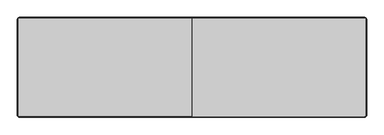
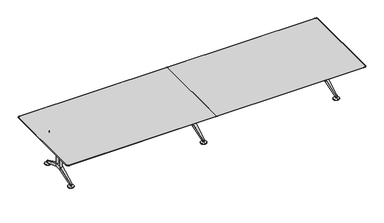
"""IFC4 building model written with IfcOpenShell, lengths in millimetres: furniture geometry, Furniture_Wilkhahn_620-23_Logon Table-Rectangle : Logon 620/23_5250L x 1500W x 730H."""

from ifc_helpers import new_model, si_unit, point, frame, frame_2d, origin, place, context, project, spatial, polyline, circle_curve, ellipse_curve, trimmed, segment, composite_curve, outline, extrude, source, transform, mapped, element, save
from ifc_brep_helpers import plane_surface, cylinder_surface, revolved_surface, advanced_brep


def furniture_16164661(model_context):
    return source(origin(), model_context, "Body", "SolidModel", [
        advanced_brep(
        [(0.0, 26.4755164, 0.0), (0.0, -23.5244836, 0.0), (0.0, 76.4755164, 0.0), (0.0, -23.5244836, 6.0), (0.0, 76.4755164, 6.0), (0.0, 13.9998784, 17.0), (0.0, 38.9511544, 17.0), (0.0, 13.9998784, 27.0), (0.0, 38.9511544, 27.0), (0.0, 26.4755164, 27.0)],
        [
            (0, 1),
            (1, 2, circle_curve(frame((0.0, 26.4755164, 0.0), z_axis=(0.0, 0.0, -1.0), x_axis=(0.0, 1.0000000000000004, 0.0)), 50.0)),
            (2, 0),
            (2, 1, circle_curve(frame((0.0, 26.4755164, 0.0), z_axis=(0.0, 0.0, -1.0), x_axis=(0.0, 1.0000000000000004, 0.0)), 50.0)),
            (1, 3),
            (3, 4, circle_curve(frame((0.0, 26.4755164, 6.0), z_axis=(0.0, 0.0, -1.0), x_axis=(0.0, 1.0000000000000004, 0.0)), 50.0)),
            (4, 2),
            (4, 3, circle_curve(frame((0.0, 26.4755164, 6.0), z_axis=(0.0, 0.0, -1.0), x_axis=(0.0, 1.0000000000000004, 0.0)), 50.0)),
            (3, 5),
            (5, 6, circle_curve(frame((0.0, 26.4755164, 17.0), z_axis=(0.0, 0.0, -1.0), x_axis=(0.0, 1.0000000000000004, 0.0)), 12.475638)),
            (6, 4),
            (6, 5, circle_curve(frame((0.0, 26.4755164, 17.0), z_axis=(0.0, 0.0, -1.0), x_axis=(0.0, 1.0000000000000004, 0.0)), 12.475638)),
            (5, 7),
            (7, 8, circle_curve(frame((0.0, 26.4755164, 27.0), z_axis=(0.0, 0.0, -1.0), x_axis=(0.0, 1.0000000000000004, 0.0)), 12.475638)),
            (8, 6),
            (8, 7, circle_curve(frame((0.0, 26.4755164, 27.0), z_axis=(0.0, 0.0, -1.0), x_axis=(0.0, 1.0000000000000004, 0.0)), 12.475638)),
            (7, 9),
            (9, 8),
        ],
        [
            plane_surface(frame((0.0, 26.4755164, 0.0), z_axis=(0.0, 0.0, -1.0), x_axis=(0.0, 1.0, 0.0))),
            cylinder_surface(frame((0.0, 26.4755164, 27.0), z_axis=(0.0, 0.0, -1.0), x_axis=(0.0, 1.0000000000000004, 0.0)), 50.0),
            revolved_surface(polyline([(0.0, 38.9511544, 17.0), (0.0, 76.4755164, 6.0)]), (0.0, 26.4755164, 27.0), (0.0, 0.0, -1.0)),
            cylinder_surface(frame((0.0, 26.4755164, 27.0), z_axis=(0.0, 0.0, -1.0), x_axis=(0.0, 1.0000000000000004, 0.0)), 12.475638),
            plane_surface(frame((0.0, 26.4755164, 27.0), z_axis=(0.0, 0.0, 1.0), x_axis=(0.0, 1.0, 0.0))),
        ],
        [
            (0, [[1, 2, 3]]),
            (0, [[-3, 4, -1]]),
            (1, [[5, 6, 7, -2]]),
            (1, [[-7, 8, -5, -4]]),
            (2, [[9, 10, 11, -6]]),
            (2, [[-11, 12, -9, -8]]),
            (3, [[13, 14, 15, -10]]),
            (3, [[-15, 16, -13, -12]]),
            (4, [[17, 18, -14]]),
            (4, [[-18, -17, -16]]),
        ],
    ),
        advanced_brep(
        [(0.0, -624.5732076, 0.0), (0.0, -674.5732076, 0.0), (0.0, -724.5732076, 0.0), (0.0, -624.5732076, 6.0), (0.0, -724.5732076, 6.0), (0.0, -662.0975696, 17.0), (0.0, -687.0488456, 17.0), (0.0, -662.0975696, 27.0), (0.0, -687.0488456, 27.0), (0.0, -674.5732076, 27.0)],
        [
            (0, 1),
            (1, 2),
            (2, 0, circle_curve(frame((0.0, -674.5732076, 0.0), z_axis=(0.0, 0.0, -1.0), x_axis=(0.0, -1.0000000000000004, 0.0)), 50.0)),
            (0, 2, circle_curve(frame((0.0, -674.5732076, 0.0), z_axis=(0.0, 0.0, -1.0), x_axis=(0.0, -1.0000000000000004, 0.0)), 50.0)),
            (3, 0),
            (2, 4),
            (4, 3, circle_curve(frame((0.0, -674.5732076, 6.0), z_axis=(0.0, 0.0, -1.0), x_axis=(0.0, -1.0000000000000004, 0.0)), 50.0)),
            (3, 4, circle_curve(frame((0.0, -674.5732076, 6.0), z_axis=(0.0, 0.0, -1.0), x_axis=(0.0, -1.0000000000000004, 0.0)), 50.0)),
            (5, 3),
            (4, 6),
            (6, 5, circle_curve(frame((0.0, -674.5732076, 17.0), z_axis=(0.0, 0.0, -1.0), x_axis=(0.0, -1.0000000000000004, 0.0)), 12.475638)),
            (5, 6, circle_curve(frame((0.0, -674.5732076, 17.0), z_axis=(0.0, 0.0, -1.0), x_axis=(0.0, -1.0000000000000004, 0.0)), 12.475638)),
            (7, 5),
            (6, 8),
            (8, 7, circle_curve(frame((0.0, -674.5732076, 27.0), z_axis=(0.0, 0.0, -1.0), x_axis=(0.0, -1.0000000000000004, 0.0)), 12.475638)),
            (7, 8, circle_curve(frame((0.0, -674.5732076, 27.0), z_axis=(0.0, 0.0, -1.0), x_axis=(0.0, -1.0000000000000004, 0.0)), 12.475638)),
            (9, 7),
            (8, 9),
        ],
        [
            plane_surface(frame((0.0, -674.5732076, 0.0), z_axis=(0.0, 0.0, -1.0), x_axis=(0.0, -1.0, 0.0))),
            cylinder_surface(frame((0.0, -674.5732076, 27.0), z_axis=(0.0, 0.0, 1.0), x_axis=(0.0, -1.0000000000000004, 0.0)), 50.0),
            revolved_surface(polyline([(0.0, -724.5732076, 6.0), (0.0, -687.0488456, 17.0)]), (0.0, -674.5732076, 27.0), (0.0, 0.0, 1.0)),
            cylinder_surface(frame((0.0, -674.5732076, 27.0), z_axis=(0.0, 0.0, 1.0), x_axis=(0.0, -1.0000000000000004, 0.0)), 12.475638),
            plane_surface(frame((0.0, -674.5732076, 27.0), z_axis=(0.0, 0.0, 1.0), x_axis=(0.0, -1.0, 0.0))),
        ],
        [
            (0, [[1, 2, 3]]),
            (0, [[-2, -1, 4]]),
            (1, [[5, -3, 6, 7]]),
            (1, [[-6, -4, -5, 8]]),
            (2, [[9, -7, 10, 11]]),
            (2, [[-10, -8, -9, 12]]),
            (3, [[13, -11, 14, 15]]),
            (3, [[-14, -12, -13, 16]]),
            (4, [[17, -15, 18]]),
            (4, [[-18, -16, -17]]),
        ],
    ),
        extrude(outline(composite_curve([segment(polyline([(25.0, -271.0488456), (25.0, -377.0488456), (51.7160071, -540.1086133)]), True, "CONTINUOUS"), segment(trimmed(circle_curve(frame_2d((39.8739001, -542.0488456)), 12.0), [point((51.7160071, -540.1086133))], [point((39.8739001, -554.0488456))], False, "CARTESIAN"), True, "CONTINUOUS"), segment(polyline([(39.8739001, -554.0488456), (-39.8739001, -554.0488456)]), True, "CONTINUOUS"), segment(trimmed(circle_curve(frame_2d((-39.8739001, -542.0488456)), 12.0), [point((-39.8739001, -554.0488456))], [point((-51.7160071, -540.1086133))], False, "CARTESIAN"), True, "CONTINUOUS"), segment(polyline([(-51.7160071, -540.1086133), (-25.0, -377.0488456), (-25.0, -271.0488456), (-51.7160071, -107.9890778)]), True, "CONTINUOUS"), segment(trimmed(circle_curve(frame_2d((-39.8739001, -106.0488456)), 12.0), [point((-51.7160071, -107.9890778))], [point((-39.8739001, -94.0488456))], False, "CARTESIAN"), True, "CONTINUOUS"), segment(polyline([(-39.8739001, -94.0488456), (39.8739001, -94.0488456)]), True, "CONTINUOUS"), segment(trimmed(circle_curve(frame_2d((39.8739001, -106.0488456)), 12.0), [point((39.8739001, -94.0488456))], [point((51.7160071, -107.9890778))], False, "CARTESIAN"), True, "CONTINUOUS"), segment(polyline([(51.7160071, -107.9890778), (25.0, -271.0488456)]), True, "CONTINUOUS")], self_intersect=False)), frame((0.0, 0.0, 675.0), z_axis=(0.0, 0.0, 1.0), x_axis=(1.0, 0.0, 0.0)), (0.0, 0.0, 1.0), 29.0),
        advanced_brep(
        [(-25.0, -377.0488456, 140.0), (-25.0, -377.0488456, 195.0), (-25.0, -271.0488456, 195.0), (-25.0, -271.0488456, 140.0), (25.0, -377.0488456, 195.0), (25.0, -377.0488456, 140.0), (25.0, -271.0488456, 140.0), (25.0, -271.0488456, 195.0), (13.4930419, -662.0975696, 27.0), (12.9894205, -674.5732076, 27.0), (0.0, -687.0488456, 27.0), (-12.9894205, -674.5732076, 27.0), (-13.4930419, -662.0975696, 27.0), (-12.9894205, -674.5732076, 56.4159205), (0.0, -687.0488456, 50.6048844), (12.9894205, -674.5732076, 56.4159205), (12.9894205, 26.4755164, 56.4159205), (13.4930419, 13.9998784, 27.0), (12.9894205, 26.4755164, 27.0), (-12.9894205, 26.4755164, 27.0), (-13.4930419, 13.9998784, 27.0), (-12.9894205, 26.4755164, 56.4159205), (0.0, 38.9511544, 50.6048844), (0.0, 38.9511544, 27.0)],
        [
            (0, 1),
            (1, 2),
            (2, 3),
            (3, 0),
            (4, 5),
            (5, 6),
            (6, 7),
            (7, 4),
            (8, 9),
            (9, 10, circle_curve(frame((0.0, -674.0488456, 27.0), z_axis=(0.0, 0.0, -1.0), x_axis=(1.0000000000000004, 0.0, 0.0)), 13.0)),
            (10, 11, circle_curve(frame((0.0, -674.0488456, 27.0), z_axis=(0.0, 0.0, -1.0), x_axis=(1.0000000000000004, 0.0, 0.0)), 13.0)),
            (11, 12),
            (12, 8),
            (1, 13),
            (13, 14, ellipse_curve(frame((0.0, -674.0488456, 56.6601634), z_axis=(0.0, -0.42223330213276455, 0.9064871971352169), x_axis=(0.0, -0.9064871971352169, -0.42223330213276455)), 14.341074, 13.0)),
            (14, 15, ellipse_curve(frame((0.0, -674.0488456, 56.6601634), z_axis=(0.0, -0.42223330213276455, 0.9064871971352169), x_axis=(0.0, -0.9064871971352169, -0.42223330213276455)), 14.341074, 13.0)),
            (15, 4),
            (4, 1),
            (5, 8),
            (12, 0),
            (0, 5),
            (16, 7),
            (6, 17),
            (17, 18),
            (18, 16),
            (19, 20),
            (20, 3),
            (2, 21),
            (21, 19),
            (7, 2),
            (3, 6),
            (21, 22, ellipse_curve(frame((0.0, 25.9511544, 56.6601634), z_axis=(0.0, -0.42223330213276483, -0.906487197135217), x_axis=(0.0, 0.906487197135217, -0.42223330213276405)), 14.341074, 13.0)),
            (22, 16, ellipse_curve(frame((0.0, 25.9511544, 56.6601634), z_axis=(0.0, -0.42223330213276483, -0.906487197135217), x_axis=(0.0, 0.906487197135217, -0.42223330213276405)), 14.341074, 13.0)),
            (18, 23, circle_curve(frame((0.0, 25.9511544, 27.0), z_axis=(0.0, 0.0, 1.0), x_axis=(1.0000000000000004, 0.0, 0.0)), 13.0)),
            (23, 19, circle_curve(frame((0.0, 25.9511544, 27.0), z_axis=(0.0, 0.0, 1.0), x_axis=(1.0000000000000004, 0.0, 0.0)), 13.0)),
            (11, 13),
            (9, 15),
            (17, 20),
        ],
        [
            plane_surface(frame((-25.0, -670.3023057, 27.0), z_axis=(-1.0, 0.0, 0.0), x_axis=(0.0, 1.0, 0.0))),
            plane_surface(frame((25.0, -670.3023057, 27.0), z_axis=(1.0, 0.0, 0.0), x_axis=(0.0, -1.0, 0.0))),
            plane_surface(frame((25.0, -662.0975696, 27.0), z_axis=(0.0, 0.0, -1.0), x_axis=(-1.0, 0.0, 0.0))),
            plane_surface(frame((25.0, -687.0488456, 50.6048844), z_axis=(0.0, -0.42223330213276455, 0.9064871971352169), x_axis=(-1.0, 0.0, 0.0))),
            plane_surface(frame((25.0, -377.0488456, 140.0), z_axis=(0.0, 0.36852267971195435, -0.9296187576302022), x_axis=(-1.0, 0.0, 0.0))),
            plane_surface(frame((25.0, -271.0488456, 195.0), z_axis=(0.9991861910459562, 0.04033553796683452, 0.0), x_axis=(0.0, 0.0, -1.0))),
            plane_surface(frame((-12.9894205, 26.4755164, 195.0), z_axis=(-0.9991861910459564, 0.0403355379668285, 0.0), x_axis=(0.0, 0.0, -1.0))),
            plane_surface(frame((25.0, -377.0488456, 195.0), z_axis=(0.0, 0.0, 1.0), x_axis=(-1.0, 0.0, 0.0))),
            plane_surface(frame((25.0, -271.0488456, 140.0), z_axis=(0.0, 0.0, -1.0), x_axis=(-1.0, 0.0, 0.0))),
            cylinder_surface(frame((0.0, 25.9511544, 0.0), z_axis=(0.0, 0.0, -1.0), x_axis=(1.0000000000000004, 0.0, 0.0)), 13.0),
            plane_surface(frame((-25.0, -377.0488456, 195.0), z_axis=(-0.9991861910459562, -0.040335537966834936, 0.0), x_axis=(0.0, 0.0, -1.0))),
            cylinder_surface(frame((0.0, -674.0488456, -14.190167), z_axis=(0.0, 0.0, -1.0), x_axis=(1.0000000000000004, 0.0, 0.0)), 13.0),
            plane_surface(frame((12.9894205, -674.5732076, 195.0), z_axis=(0.9991861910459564, -0.04033553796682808, 0.0), x_axis=(0.0, 0.0, -1.0))),
            plane_surface(frame((25.0, -271.0488456, 195.0), z_axis=(0.0, 0.4222333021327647, 0.9064871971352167), x_axis=(-1.0, 0.0, 0.0))),
            plane_surface(frame((25.0, 38.9511544, 27.0), z_axis=(0.0, 0.0, -1.0), x_axis=(-1.0, 0.0, 0.0))),
            plane_surface(frame((25.0, 13.9998784, 27.0), z_axis=(0.0, -0.36852267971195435, -0.929618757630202), x_axis=(-1.0, 0.0, 0.0))),
        ],
        [
            (0, [[1, 2, 3, 4]]),
            (1, [[5, 6, 7, 8]]),
            (2, [[9, 10, 11, 12, 13]]),
            (3, [[14, 15, 16, 17, 18]]),
            (4, [[19, -13, 20, 21]]),
            (5, [[22, -7, 23, 24, 25]]),
            (6, [[26, 27, -3, 28, 29]]),
            (7, [[-18, -8, 30, -2]]),
            (8, [[31, -6, -21, -4]]),
            (9, [[32, 33, -25, 34, 35, -29]]),
            (10, [[-14, -1, -20, -12, 36]]),
            (11, [[-11, -10, 37, -16, -15, -36]]),
            (12, [[-9, -19, -5, -17, -37]]),
            (13, [[-22, -33, -32, -28, -30]]),
            (14, [[-26, -35, -34, -24, 38]]),
            (15, [[-27, -38, -23, -31]]),
        ],
    ),
        extrude(outline(composite_curve([segment(trimmed(circle_curve(frame_2d((0.0, -271.0488456)), 20.0), [point((-20.0, -271.0488456))], [point((20.0, -271.0488456))], False, "CARTESIAN"), True, "CONTINUOUS"), segment(trimmed(circle_curve(frame_2d((0.0, -271.0488456)), 20.0), [point((20.0, -271.0488456))], [point((-20.0, -271.0488456))], False, "CARTESIAN"), True, "CONTINUOUS")], self_intersect=False)), frame((0.0, 0.0, 140.0), z_axis=(0.0, 0.0, 1.0), x_axis=(1.0, 0.0, 0.0)), (0.0, 0.0, 1.0), 535.0),
        extrude(outline(composite_curve([segment(trimmed(circle_curve(frame_2d((0.0, -377.0488456)), 20.0), [point((-20.0, -377.0488456))], [point((20.0, -377.0488456))], False, "CARTESIAN"), True, "CONTINUOUS"), segment(trimmed(circle_curve(frame_2d((0.0, -377.0488456)), 20.0), [point((20.0, -377.0488456))], [point((-20.0, -377.0488456))], False, "CARTESIAN"), True, "CONTINUOUS")], self_intersect=False)), frame((0.0, 0.0, 140.0), z_axis=(0.0, 0.0, 1.0), x_axis=(1.0, 0.0, 0.0)), (0.0, 0.0, 1.0), 535.0),
        advanced_brep(
        [(0.0, -1070.4570299, 730.0), (2594.5, -1070.4570299, 730.0), (2621.4081843, -1043.5488456, 730.0), (2621.4081843, 395.4511544, 730.0), (2594.5, 422.3593387, 730.0), (0.0, 422.3593387, 730.0), (0.0, -1044.7199471, 703.9999792), (0.0, 396.6222559, 703.9999792), (2594.5, 396.6222559, 703.9999792), (2595.6711015, 395.4511544, 703.9999792), (2595.6711015, -1043.5488456, 703.9999792), (2594.5, -1044.7199471, 703.9999792), (0.0, 424.4200641, 723.4642141), (0.0, -1072.5177553, 723.4642141), (2594.5, 424.4200641, 723.4642141), (2623.4689097, 395.4511544, 723.4642141), (2623.4689097, -1043.5488456, 723.4642141), (2594.5, -1072.5177553, 723.4642141)],
        [
            (0, 1),
            (1, 2, circle_curve(frame((2594.5, -1043.5488456, 730.0), z_axis=(0.0, 0.0, 1.0), x_axis=(1.0, 0.0, 0.0)), 26.9081843)),
            (2, 3),
            (3, 4, circle_curve(frame((2594.5, 395.4511544, 730.0), z_axis=(0.0, 0.0, 1.0), x_axis=(0.0, 1.0, 0.0)), 26.9081843)),
            (4, 5),
            (5, 0),
            (6, 7),
            (7, 8),
            (8, 9, circle_curve(frame((2594.5, 395.4511544, 703.9999792), z_axis=(0.0, 0.0, -1.0), x_axis=(0.0, 1.0, 0.0)), 1.1711015)),
            (9, 10),
            (10, 11, circle_curve(frame((2594.5, -1043.5488456, 703.9999792), z_axis=(0.0, 0.0, -1.0), x_axis=(1.0, 0.0, 0.0)), 1.1711015)),
            (11, 6),
            (5, 12, circle_curve(frame((0.0, 422.3593387, 726.4072349), z_axis=(-1.0, 0.0, 0.0), x_axis=(0.0, 1.0, 0.0)), 3.5927651)),
            (12, 7),
            (6, 13),
            (13, 0, circle_curve(frame((0.0, -1070.4570299, 726.4072349), z_axis=(-1.0, 0.0, 0.0), x_axis=(0.0, -1.0, 0.0)), 3.5927651)),
            (12, 14),
            (14, 8),
            (4, 14, circle_curve(frame((2594.5, 422.3593387, 726.4072349), z_axis=(-1.0, 0.0, 0.0), x_axis=(0.0, 1.0, 0.0)), 3.5927651)),
            (14, 15, circle_curve(frame((2594.5, 395.4511544, 723.4642141), z_axis=(0.0, 0.0, -1.0), x_axis=(0.0, 1.0, 0.0)), 28.9689097)),
            (15, 9),
            (3, 15, circle_curve(frame((2621.4081843, 395.4511544, 726.4072349), z_axis=(0.0, 1.0, 0.0), x_axis=(1.0, 0.0, 0.0)), 3.5927651)),
            (15, 16),
            (16, 10),
            (2, 16, circle_curve(frame((2621.4081843, -1043.5488456, 726.4072349), z_axis=(0.0, 1.0, 0.0), x_axis=(1.0, 0.0, 0.0)), 3.5927651)),
            (16, 17, circle_curve(frame((2594.5, -1043.5488456, 723.4642141), z_axis=(0.0, 0.0, -1.0), x_axis=(1.0, 0.0, 0.0)), 28.9689097)),
            (17, 11),
            (1, 17, circle_curve(frame((2594.5, -1070.4570299, 726.4072349), z_axis=(1.0, 0.0, 0.0), x_axis=(0.0, -1.0, 0.0)), 3.5927651)),
            (17, 13),
        ],
        [
            plane_surface(frame((0.0, 396.6222559, 730.0), z_axis=(0.0, 0.0, 1.0), x_axis=(-1.0, 0.0, 0.0))),
            plane_surface(frame((0.0, 396.6222559, 703.9999792), z_axis=(0.0, 0.0, -1.0), x_axis=(1.0, 0.0, 0.0))),
            plane_surface(frame((0.0, 396.6222559, 730.0), z_axis=(-1.0, 0.0, 0.0), x_axis=(0.0, 0.0, -1.0))),
            plane_surface(frame((0.0, 424.4200641, 723.4642141), z_axis=(0.0, 0.573576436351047, -0.8191520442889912), x_axis=(1.0, 0.0, 0.0))),
            cylinder_surface(frame((0.0, 422.3593387, 726.4072349), z_axis=(-1.0, 0.0, 0.0), x_axis=(0.0, 1.0, 0.0)), 3.5927651),
            revolved_surface(polyline([(2594.5, 424.4200641, 723.4642141), (2594.5, 396.6222559, 703.9999792)]), (2594.5, 395.4511544, 730.0), (0.0, 0.0, -1.0)),
            revolved_surface(trimmed(ellipse_curve(frame((2594.5, 422.3593387, 726.4072349), z_axis=(-1.0, 0.0, 0.0), x_axis=(0.0, 1.0, 0.0)), 3.5927651, 3.5927651), [point((2594.5, 422.3593387, 730.0))], [point((2594.5, 424.4200641, 723.4642141))], True, "CARTESIAN"), (2594.5, 395.4511544, 730.0), (0.0, 0.0, -1.0)),
            plane_surface(frame((2623.4689097, 395.4511544, 723.4642141), z_axis=(0.5735764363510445, 0.0, -0.819152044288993), x_axis=(0.0, -1.0, 0.0))),
            cylinder_surface(frame((2621.4081843, 395.4511544, 726.4072349), z_axis=(0.0, 1.0, 0.0), x_axis=(1.0, 0.0, 0.0)), 3.5927651),
            revolved_surface(polyline([(2623.4689097, -1043.5488456, 723.4642141), (2595.6711015, -1043.5488456, 703.9999792)]), (2594.5, -1043.5488456, 730.0), (0.0, 0.0, -1.0)),
            revolved_surface(trimmed(ellipse_curve(frame((2621.4081843, -1043.5488456, 726.4072349), z_axis=(0.0, 1.0, 0.0), x_axis=(1.0, 0.0, 0.0)), 3.5927651, 3.5927651), [point((2621.4081843, -1043.5488456, 730.0))], [point((2623.4689097, -1043.5488456, 723.4642141))], True, "CARTESIAN"), (2594.5, -1043.5488456, 730.0), (0.0, 0.0, -1.0)),
            plane_surface(frame((2594.5, -1072.5177553, 723.4642141), z_axis=(0.0, -0.5735764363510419, -0.8191520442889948), x_axis=(-1.0, 0.0, 0.0))),
            cylinder_surface(frame((2594.5, -1070.4570299, 726.4072349), z_axis=(1.0, 0.0, 0.0), x_axis=(0.0, -1.0, 0.0)), 3.5927651),
        ],
        [
            (0, [[1, 2, 3, 4, 5, 6]]),
            (1, [[7, 8, 9, 10, 11, 12]]),
            (2, [[-6, 13, 14, -7, 15, 16]]),
            (3, [[-14, 17, 18, -8]]),
            (4, [[-13, -5, 19, -17]]),
            (5, [[-18, 20, 21, -9]]),
            (6, [[-4, 22, -20, -19]]),
            (7, [[-21, 23, 24, -10]]),
            (8, [[-3, 25, -23, -22]]),
            (9, [[-24, 26, 27, -11]]),
            (10, [[-2, 28, -26, -25]]),
            (11, [[-15, -12, -27, 29]]),
            (12, [[-16, -29, -28, -1]]),
        ],
    ),
        advanced_brep(
        [(0.0, 424.4200641, 723.4642141), (0.0, 396.6222559, 703.9999792), (-2594.5, 396.6222559, 703.9999792), (-2594.5, 424.4200641, 723.4642141), (0.0, 422.3593387, 730.0), (-2594.5, 422.3593387, 730.0), (-2595.6711015, 395.4511544, 703.9999792), (-2623.4689097, 395.4511544, 723.4642141), (-2621.4081843, 395.4511544, 730.0), (-2595.6711015, -1043.5488456, 703.9999792), (-2623.4689097, -1043.5488456, 723.4642141), (-2621.4081843, -1043.5488456, 730.0), (-2594.5, -1044.7199471, 703.9999792), (-2594.5, -1072.5177553, 723.4642141), (-2594.5, -1070.4570299, 730.0), (0.0, -1044.7199471, 703.9999792), (0.0, -1072.5177553, 723.4642141), (0.0, -1070.4570299, 730.0)],
        [
            (0, 1),
            (1, 2),
            (2, 3),
            (3, 0),
            (4, 0, circle_curve(frame((0.0, 422.3593387, 726.4072349), z_axis=(-1.0, 0.0, 0.0), x_axis=(0.0, -1.0, 0.0)), 3.5927651)),
            (3, 5, circle_curve(frame((-2594.5, 422.3593387, 726.4072349), z_axis=(1.0, 0.0, 0.0), x_axis=(0.0, -1.0, 0.0)), 3.5927651)),
            (5, 4),
            (2, 6, circle_curve(frame((-2594.5, 395.4511544, 703.9999792), z_axis=(0.0, 0.0, 1.0), x_axis=(0.0, 1.0, 0.0)), 1.1711015)),
            (6, 7),
            (7, 3, circle_curve(frame((-2594.5, 395.4511544, 723.4642141), z_axis=(0.0, 0.0, -1.0), x_axis=(0.0, 1.0, 0.0)), 28.9689097)),
            (8, 5, circle_curve(frame((-2594.5, 395.4511544, 730.0), z_axis=(0.0, 0.0, -1.0), x_axis=(0.0, 1.0, 0.0)), 26.9081843)),
            (7, 8, circle_curve(frame((-2621.4081843, 395.4511544, 726.4072349), z_axis=(0.0, 1.0, 0.0), x_axis=(1.0, 0.0, 0.0)), 3.5927651)),
            (6, 9),
            (9, 10),
            (10, 7),
            (11, 8),
            (10, 11, circle_curve(frame((-2621.4081843, -1043.5488456, 726.4072349), z_axis=(0.0, 1.0, 0.0), x_axis=(1.0, 0.0, 0.0)), 3.5927651)),
            (9, 12, circle_curve(frame((-2594.5, -1043.5488456, 703.9999792), z_axis=(0.0, 0.0, 1.0), x_axis=(-1.0, 0.0, 0.0)), 1.1711015)),
            (12, 13),
            (13, 10, circle_curve(frame((-2594.5, -1043.5488456, 723.4642141), z_axis=(0.0, 0.0, -1.0), x_axis=(-1.0, 0.0, 0.0)), 28.9689097)),
            (14, 11, circle_curve(frame((-2594.5, -1043.5488456, 730.0), z_axis=(0.0, 0.0, -1.0), x_axis=(-1.0, 0.0, 0.0)), 26.9081843)),
            (13, 14, circle_curve(frame((-2594.5, -1070.4570299, 726.4072349), z_axis=(-1.0, 0.0, 0.0), x_axis=(0.0, 1.0, 0.0)), 3.5927651)),
            (15, 16),
            (16, 13),
            (12, 15),
            (16, 17, circle_curve(frame((0.0, -1070.4570299, 726.4072349), z_axis=(-1.0, 0.0, 0.0), x_axis=(0.0, 1.0, 0.0)), 3.5927651)),
            (17, 14),
            (1, 15),
            (17, 4),
        ],
        [
            plane_surface(frame((0.0, 396.6222559, 703.9999792), z_axis=(0.0, 0.573576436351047, -0.8191520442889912), x_axis=(-1.0, 0.0, 0.0))),
            cylinder_surface(frame((0.0, 422.3593387, 726.4072349), z_axis=(1.0, 0.0, 0.0), x_axis=(0.0, -1.0, 0.0)), 3.5927651),
            revolved_surface(polyline([(-2594.5, 396.6222559, 703.9999792), (-2594.5, 424.4200641, 723.4642141)]), (-2594.5, 395.4511544, 730.0), (0.0, 0.0, 1.0)),
            revolved_surface(trimmed(ellipse_curve(frame((-2594.5, 422.3593387, 726.4072349), z_axis=(1.0, 0.0, 0.0), x_axis=(0.0, -1.0, 0.0)), 3.5927651, 3.5927651), [point((-2594.5, 424.4200641, 723.4642141))], [point((-2594.5, 422.3593387, 730.0))], True, "CARTESIAN"), (-2594.5, 395.4511544, 730.0), (0.0, 0.0, 1.0)),
            plane_surface(frame((-2595.6711015, 395.4511544, 703.9999792), z_axis=(-0.5735764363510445, 0.0, -0.819152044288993), x_axis=(0.0, -1.0, 0.0))),
            cylinder_surface(frame((-2621.4081843, 395.4511544, 726.4072349), z_axis=(0.0, 1.0, 0.0), x_axis=(1.0, 0.0, 0.0)), 3.5927651),
            revolved_surface(polyline([(-2595.6711015, -1043.5488456, 703.9999792), (-2623.4689097, -1043.5488456, 723.4642141)]), (-2594.5, -1043.5488456, 730.0), (0.0, 0.0, 1.0)),
            revolved_surface(trimmed(ellipse_curve(frame((-2621.4081843, -1043.5488456, 726.4072349), z_axis=(0.0, 1.0, 0.0), x_axis=(1.0, 0.0, 0.0)), 3.5927651, 3.5927651), [point((-2623.4689097, -1043.5488456, 723.4642141))], [point((-2621.4081843, -1043.5488456, 730.0))], True, "CARTESIAN"), (-2594.5, -1043.5488456, 730.0), (0.0, 0.0, 1.0)),
            plane_surface(frame((-2594.5, -1044.7199471, 703.9999792), z_axis=(0.0, -0.5735764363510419, -0.8191520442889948), x_axis=(1.0, 0.0, 0.0))),
            cylinder_surface(frame((-2594.5, -1070.4570299, 726.4072349), z_axis=(-1.0, 0.0, 0.0), x_axis=(0.0, 1.0, 0.0)), 3.5927651),
            plane_surface(frame((-2594.5, 396.6222559, 703.9999792), z_axis=(0.0, 0.0, -1.0), x_axis=(1.0, 0.0, 0.0))),
            plane_surface(frame((-2594.5, 396.6222559, 730.0), z_axis=(0.0, 0.0, 1.0), x_axis=(-1.0, 0.0, 0.0))),
            plane_surface(frame((0.0, -1044.7199471, 730.0), z_axis=(1.0, 0.0, 0.0), x_axis=(0.0, 0.0, -1.0))),
        ],
        [
            (0, [[1, 2, 3, 4]]),
            (1, [[5, -4, 6, 7]]),
            (2, [[-3, 8, 9, 10]]),
            (3, [[11, -6, -10, 12]]),
            (4, [[-9, 13, 14, 15]]),
            (5, [[16, -12, -15, 17]]),
            (6, [[-14, 18, 19, 20]]),
            (7, [[21, -17, -20, 22]]),
            (8, [[23, 24, -19, 25]]),
            (9, [[26, 27, -22, -24]]),
            (10, [[28, -25, -18, -13, -8, -2]]),
            (11, [[-7, -11, -16, -21, -27, 29]]),
            (12, [[-29, -26, -23, -28, -1, -5]]),
        ],
    ),
        advanced_brep(
        [(2325.0, 26.4755164, 0.0), (2325.0, -23.5244836, 0.0), (2325.0, 76.4755164, 0.0), (2325.0, -23.5244836, 6.0), (2325.0, 76.4755164, 6.0), (2325.0, 13.9998784, 17.0), (2325.0, 38.9511544, 17.0), (2325.0, 13.9998784, 27.0), (2325.0, 38.9511544, 27.0), (2325.0, 26.4755164, 27.0)],
        [
            (0, 1),
            (1, 2, circle_curve(frame((2325.0, 26.4755164, 0.0), z_axis=(0.0, 0.0, -1.0), x_axis=(0.0, 1.0000000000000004, 0.0)), 50.0)),
            (2, 0),
            (2, 1, circle_curve(frame((2325.0, 26.4755164, 0.0), z_axis=(0.0, 0.0, -1.0), x_axis=(0.0, 1.0000000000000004, 0.0)), 50.0)),
            (1, 3),
            (3, 4, circle_curve(frame((2325.0, 26.4755164, 6.0), z_axis=(0.0, 0.0, -1.0), x_axis=(0.0, 1.0000000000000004, 0.0)), 50.0)),
            (4, 2),
            (4, 3, circle_curve(frame((2325.0, 26.4755164, 6.0), z_axis=(0.0, 0.0, -1.0), x_axis=(0.0, 1.0000000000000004, 0.0)), 50.0)),
            (3, 5),
            (5, 6, circle_curve(frame((2325.0, 26.4755164, 17.0), z_axis=(0.0, 0.0, -1.0), x_axis=(0.0, 1.0000000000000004, 0.0)), 12.475638)),
            (6, 4),
            (6, 5, circle_curve(frame((2325.0, 26.4755164, 17.0), z_axis=(0.0, 0.0, -1.0), x_axis=(0.0, 1.0000000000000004, 0.0)), 12.475638)),
            (5, 7),
            (7, 8, circle_curve(frame((2325.0, 26.4755164, 27.0), z_axis=(0.0, 0.0, -1.0), x_axis=(0.0, 1.0000000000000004, 0.0)), 12.475638)),
            (8, 6),
            (8, 7, circle_curve(frame((2325.0, 26.4755164, 27.0), z_axis=(0.0, 0.0, -1.0), x_axis=(0.0, 1.0000000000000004, 0.0)), 12.475638)),
            (7, 9),
            (9, 8),
        ],
        [
            plane_surface(frame((2325.0, 26.4755164, 0.0), z_axis=(0.0, 0.0, -1.0), x_axis=(0.0, 1.0, 0.0))),
            cylinder_surface(frame((2325.0, 26.4755164, 27.0), z_axis=(0.0, 0.0, -1.0), x_axis=(0.0, 1.0000000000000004, 0.0)), 50.0),
            revolved_surface(polyline([(2325.0, 38.9511544, 17.0), (2325.0, 76.4755164, 6.0)]), (2325.0, 26.4755164, 27.0), (0.0, 0.0, -1.0)),
            cylinder_surface(frame((2325.0, 26.4755164, 27.0), z_axis=(0.0, 0.0, -1.0), x_axis=(0.0, 1.0000000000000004, 0.0)), 12.475638),
            plane_surface(frame((2325.0, 26.4755164, 27.0), z_axis=(0.0, 0.0, 1.0), x_axis=(0.0, 1.0, 0.0))),
        ],
        [
            (0, [[1, 2, 3]]),
            (0, [[-3, 4, -1]]),
            (1, [[5, 6, 7, -2]]),
            (1, [[-7, 8, -5, -4]]),
            (2, [[9, 10, 11, -6]]),
            (2, [[-11, 12, -9, -8]]),
            (3, [[13, 14, 15, -10]]),
            (3, [[-15, 16, -13, -12]]),
            (4, [[17, 18, -14]]),
            (4, [[-18, -17, -16]]),
        ],
    ),
        advanced_brep(
        [(2325.0, -624.5732076, 0.0), (2325.0, -674.5732076, 0.0), (2325.0, -724.5732076, 0.0), (2325.0, -624.5732076, 6.0), (2325.0, -724.5732076, 6.0), (2325.0, -662.0975696, 17.0), (2325.0, -687.0488456, 17.0), (2325.0, -662.0975696, 27.0), (2325.0, -687.0488456, 27.0), (2325.0, -674.5732076, 27.0)],
        [
            (0, 1),
            (1, 2),
            (2, 0, circle_curve(frame((2325.0, -674.5732076, 0.0), z_axis=(0.0, 0.0, -1.0), x_axis=(0.0, -1.0000000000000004, 0.0)), 50.0)),
            (0, 2, circle_curve(frame((2325.0, -674.5732076, 0.0), z_axis=(0.0, 0.0, -1.0), x_axis=(0.0, -1.0000000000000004, 0.0)), 50.0)),
            (3, 0),
            (2, 4),
            (4, 3, circle_curve(frame((2325.0, -674.5732076, 6.0), z_axis=(0.0, 0.0, -1.0), x_axis=(0.0, -1.0000000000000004, 0.0)), 50.0)),
            (3, 4, circle_curve(frame((2325.0, -674.5732076, 6.0), z_axis=(0.0, 0.0, -1.0), x_axis=(0.0, -1.0000000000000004, 0.0)), 50.0)),
            (5, 3),
            (4, 6),
            (6, 5, circle_curve(frame((2325.0, -674.5732076, 17.0), z_axis=(0.0, 0.0, -1.0), x_axis=(0.0, -1.0000000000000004, 0.0)), 12.475638)),
            (5, 6, circle_curve(frame((2325.0, -674.5732076, 17.0), z_axis=(0.0, 0.0, -1.0), x_axis=(0.0, -1.0000000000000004, 0.0)), 12.475638)),
            (7, 5),
            (6, 8),
            (8, 7, circle_curve(frame((2325.0, -674.5732076, 27.0), z_axis=(0.0, 0.0, -1.0), x_axis=(0.0, -1.0000000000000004, 0.0)), 12.475638)),
            (7, 8, circle_curve(frame((2325.0, -674.5732076, 27.0), z_axis=(0.0, 0.0, -1.0), x_axis=(0.0, -1.0000000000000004, 0.0)), 12.475638)),
            (9, 7),
            (8, 9),
        ],
        [
            plane_surface(frame((2325.0, -674.5732076, 0.0), z_axis=(0.0, 0.0, -1.0), x_axis=(0.0, -1.0, 0.0))),
            cylinder_surface(frame((2325.0, -674.5732076, 27.0), z_axis=(0.0, 0.0, 1.0), x_axis=(0.0, -1.0000000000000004, 0.0)), 50.0),
            revolved_surface(polyline([(2325.0, -724.5732076, 6.0), (2325.0, -687.0488456, 17.0)]), (2325.0, -674.5732076, 27.0), (0.0, 0.0, 1.0)),
            cylinder_surface(frame((2325.0, -674.5732076, 27.0), z_axis=(0.0, 0.0, 1.0), x_axis=(0.0, -1.0000000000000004, 0.0)), 12.475638),
            plane_surface(frame((2325.0, -674.5732076, 27.0), z_axis=(0.0, 0.0, 1.0), x_axis=(0.0, -1.0, 0.0))),
        ],
        [
            (0, [[1, 2, 3]]),
            (0, [[-2, -1, 4]]),
            (1, [[5, -3, 6, 7]]),
            (1, [[-6, -4, -5, 8]]),
            (2, [[9, -7, 10, 11]]),
            (2, [[-10, -8, -9, 12]]),
            (3, [[13, -11, 14, 15]]),
            (3, [[-14, -12, -13, 16]]),
            (4, [[17, -15, 18]]),
            (4, [[-18, -16, -17]]),
        ],
    ),
        extrude(outline(composite_curve([segment(polyline([(2350.0, -271.0488456), (2350.0, -377.0488456), (2376.7160071, -540.1086133)]), True, "CONTINUOUS"), segment(trimmed(circle_curve(frame_2d((2364.8739001, -542.0488456)), 12.0), [point((2376.7160071, -540.1086133))], [point((2364.8739001, -554.0488456))], False, "CARTESIAN"), True, "CONTINUOUS"), segment(polyline([(2364.8739001, -554.0488456), (2285.1260999, -554.0488456)]), True, "CONTINUOUS"), segment(trimmed(circle_curve(frame_2d((2285.1260999, -542.0488456)), 12.0), [point((2285.1260999, -554.0488456))], [point((2273.2839929, -540.1086133))], False, "CARTESIAN"), True, "CONTINUOUS"), segment(polyline([(2273.2839929, -540.1086133), (2300.0, -377.0488456), (2300.0, -271.0488456), (2273.2839929, -107.9890778)]), True, "CONTINUOUS"), segment(trimmed(circle_curve(frame_2d((2285.1260999, -106.0488456)), 12.0), [point((2273.2839929, -107.9890778))], [point((2285.1260999, -94.0488456))], False, "CARTESIAN"), True, "CONTINUOUS"), segment(polyline([(2285.1260999, -94.0488456), (2364.8739001, -94.0488456)]), True, "CONTINUOUS"), segment(trimmed(circle_curve(frame_2d((2364.8739001, -106.0488456)), 12.0), [point((2364.8739001, -94.0488456))], [point((2376.7160071, -107.9890778))], False, "CARTESIAN"), True, "CONTINUOUS"), segment(polyline([(2376.7160071, -107.9890778), (2350.0, -271.0488456)]), True, "CONTINUOUS")], self_intersect=False)), frame((0.0, 0.0, 675.0), z_axis=(0.0, 0.0, 1.0), x_axis=(1.0, 0.0, 0.0)), (0.0, 0.0, 1.0), 29.0),
        advanced_brep(
        [(2300.0, -377.0488456, 140.0), (2300.0, -377.0488456, 195.0), (2300.0, -271.0488456, 195.0), (2300.0, -271.0488456, 140.0), (2350.0, -377.0488456, 195.0), (2350.0, -377.0488456, 140.0), (2350.0, -271.0488456, 140.0), (2350.0, -271.0488456, 195.0), (2338.4930419, -662.0975696, 27.0), (2337.9894205, -674.5732076, 27.0), (2325.0, -687.0488456, 27.0), (2312.0105795, -674.5732076, 27.0), (2311.5069581, -662.0975696, 27.0), (2312.0105795, -674.5732076, 56.4159205), (2325.0, -687.0488456, 50.6048844), (2337.9894205, -674.5732076, 56.4159205), (2337.9894205, 26.4755164, 56.4159205), (2338.4930419, 13.9998784, 27.0), (2337.9894205, 26.4755164, 27.0), (2312.0105795, 26.4755164, 27.0), (2311.5069581, 13.9998784, 27.0), (2312.0105795, 26.4755164, 56.4159205), (2325.0, 38.9511544, 50.6048844), (2325.0, 38.9511544, 27.0)],
        [
            (0, 1),
            (1, 2),
            (2, 3),
            (3, 0),
            (4, 5),
            (5, 6),
            (6, 7),
            (7, 4),
            (8, 9),
            (9, 10, circle_curve(frame((2325.0, -674.0488456, 27.0), z_axis=(0.0, 0.0, -1.0), x_axis=(1.0000000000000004, 0.0, 0.0)), 13.0)),
            (10, 11, circle_curve(frame((2325.0, -674.0488456, 27.0), z_axis=(0.0, 0.0, -1.0), x_axis=(1.0000000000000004, 0.0, 0.0)), 13.0)),
            (11, 12),
            (12, 8),
            (1, 13),
            (13, 14, ellipse_curve(frame((2325.0, -674.0488456, 56.6601634), z_axis=(0.0, -0.42223330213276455, 0.9064871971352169), x_axis=(0.0, -0.9064871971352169, -0.42223330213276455)), 14.341074, 13.0)),
            (14, 15, ellipse_curve(frame((2325.0, -674.0488456, 56.6601634), z_axis=(0.0, -0.42223330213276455, 0.9064871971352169), x_axis=(0.0, -0.9064871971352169, -0.42223330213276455)), 14.341074, 13.0)),
            (15, 4),
            (4, 1),
            (5, 8),
            (12, 0),
            (0, 5),
            (16, 7),
            (6, 17),
            (17, 18),
            (18, 16),
            (19, 20),
            (20, 3),
            (2, 21),
            (21, 19),
            (7, 2),
            (3, 6),
            (21, 22, ellipse_curve(frame((2325.0, 25.9511544, 56.6601634), z_axis=(0.0, -0.42223330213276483, -0.906487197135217), x_axis=(0.0, 0.906487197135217, -0.42223330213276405)), 14.341074, 13.0)),
            (22, 16, ellipse_curve(frame((2325.0, 25.9511544, 56.6601634), z_axis=(0.0, -0.42223330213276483, -0.906487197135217), x_axis=(0.0, 0.906487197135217, -0.42223330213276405)), 14.341074, 13.0)),
            (18, 23, circle_curve(frame((2325.0, 25.9511544, 27.0), z_axis=(0.0, 0.0, 1.0), x_axis=(1.0000000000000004, 0.0, 0.0)), 13.0)),
            (23, 19, circle_curve(frame((2325.0, 25.9511544, 27.0), z_axis=(0.0, 0.0, 1.0), x_axis=(1.0000000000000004, 0.0, 0.0)), 13.0)),
            (11, 13),
            (9, 15),
            (17, 20),
        ],
        [
            plane_surface(frame((2300.0, -670.3023057, 27.0), z_axis=(-1.0, 0.0, 0.0), x_axis=(0.0, 1.0, 0.0))),
            plane_surface(frame((2350.0, -670.3023057, 27.0), z_axis=(1.0, 0.0, 0.0), x_axis=(0.0, -1.0, 0.0))),
            plane_surface(frame((2350.0, -662.0975696, 27.0), z_axis=(0.0, 0.0, -1.0), x_axis=(-1.0, 0.0, 0.0))),
            plane_surface(frame((2350.0, -687.0488456, 50.6048844), z_axis=(0.0, -0.42223330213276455, 0.9064871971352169), x_axis=(-1.0, 0.0, 0.0))),
            plane_surface(frame((2350.0, -377.0488456, 140.0), z_axis=(0.0, 0.36852267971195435, -0.9296187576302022), x_axis=(-1.0, 0.0, 0.0))),
            plane_surface(frame((2350.0, -271.0488456, 195.0), z_axis=(0.9991861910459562, 0.04033553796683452, 0.0), x_axis=(0.0, 0.0, -1.0))),
            plane_surface(frame((2312.0105795, 26.4755164, 195.0), z_axis=(-0.9991861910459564, 0.0403355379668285, 0.0), x_axis=(0.0, 0.0, -1.0))),
            plane_surface(frame((2350.0, -377.0488456, 195.0), z_axis=(0.0, 0.0, 1.0), x_axis=(-1.0, 0.0, 0.0))),
            plane_surface(frame((2350.0, -271.0488456, 140.0), z_axis=(0.0, 0.0, -1.0), x_axis=(-1.0, 0.0, 0.0))),
            cylinder_surface(frame((2325.0, 25.9511544, 0.0), z_axis=(0.0, 0.0, -1.0), x_axis=(1.0000000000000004, 0.0, 0.0)), 13.0),
            plane_surface(frame((2300.0, -377.0488456, 195.0), z_axis=(-0.9991861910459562, -0.040335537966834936, 0.0), x_axis=(0.0, 0.0, -1.0))),
            cylinder_surface(frame((2325.0, -674.0488456, -14.190167), z_axis=(0.0, 0.0, -1.0), x_axis=(1.0000000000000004, 0.0, 0.0)), 13.0),
            plane_surface(frame((2337.9894205, -674.5732076, 195.0), z_axis=(0.9991861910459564, -0.04033553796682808, 0.0), x_axis=(0.0, 0.0, -1.0))),
            plane_surface(frame((2350.0, -271.0488456, 195.0), z_axis=(0.0, 0.4222333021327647, 0.9064871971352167), x_axis=(-1.0, 0.0, 0.0))),
            plane_surface(frame((2350.0, 38.9511544, 27.0), z_axis=(0.0, 0.0, -1.0), x_axis=(-1.0, 0.0, 0.0))),
            plane_surface(frame((2350.0, 13.9998784, 27.0), z_axis=(0.0, -0.36852267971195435, -0.929618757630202), x_axis=(-1.0, 0.0, 0.0))),
        ],
        [
            (0, [[1, 2, 3, 4]]),
            (1, [[5, 6, 7, 8]]),
            (2, [[9, 10, 11, 12, 13]]),
            (3, [[14, 15, 16, 17, 18]]),
            (4, [[19, -13, 20, 21]]),
            (5, [[22, -7, 23, 24, 25]]),
            (6, [[26, 27, -3, 28, 29]]),
            (7, [[-18, -8, 30, -2]]),
            (8, [[31, -6, -21, -4]]),
            (9, [[32, 33, -25, 34, 35, -29]]),
            (10, [[-14, -1, -20, -12, 36]]),
            (11, [[-11, -10, 37, -16, -15, -36]]),
            (12, [[-9, -19, -5, -17, -37]]),
            (13, [[-22, -33, -32, -28, -30]]),
            (14, [[-26, -35, -34, -24, 38]]),
            (15, [[-27, -38, -23, -31]]),
        ],
    ),
        extrude(outline(composite_curve([segment(trimmed(circle_curve(frame_2d((2325.0, -271.0488456)), 20.0), [point((2305.0, -271.0488456))], [point((2345.0, -271.0488456))], False, "CARTESIAN"), True, "CONTINUOUS"), segment(trimmed(circle_curve(frame_2d((2325.0, -271.0488456)), 20.0), [point((2345.0, -271.0488456))], [point((2305.0, -271.0488456))], False, "CARTESIAN"), True, "CONTINUOUS")], self_intersect=False)), frame((0.0, 0.0, 140.0), z_axis=(0.0, 0.0, 1.0), x_axis=(1.0, 0.0, 0.0)), (0.0, 0.0, 1.0), 535.0),
        extrude(outline(composite_curve([segment(trimmed(circle_curve(frame_2d((2325.0, -377.0488456)), 20.0), [point((2305.0, -377.0488456))], [point((2345.0, -377.0488456))], False, "CARTESIAN"), True, "CONTINUOUS"), segment(trimmed(circle_curve(frame_2d((2325.0, -377.0488456)), 20.0), [point((2345.0, -377.0488456))], [point((2305.0, -377.0488456))], False, "CARTESIAN"), True, "CONTINUOUS")], self_intersect=False)), frame((0.0, 0.0, 140.0), z_axis=(0.0, 0.0, 1.0), x_axis=(1.0, 0.0, 0.0)), (0.0, 0.0, 1.0), 535.0),
        advanced_brep(
        [(-2325.0, 26.4755164, 0.0), (-2325.0, 76.4755164, 0.0), (-2325.0, -23.5244836, 0.0), (-2325.0, 76.4755164, 6.0), (-2325.0, -23.5244836, 6.0), (-2325.0, 38.9511544, 17.0), (-2325.0, 13.9998784, 17.0), (-2325.0, 38.9511544, 27.0), (-2325.0, 13.9998784, 27.0), (-2325.0, 26.4755164, 27.0)],
        [
            (0, 1),
            (1, 2, circle_curve(frame((-2325.0, 26.4755164, 0.0), z_axis=(0.0, 0.0, -1.0), x_axis=(0.0, 1.0000000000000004, 0.0)), 50.0)),
            (2, 0),
            (2, 1, circle_curve(frame((-2325.0, 26.4755164, 0.0), z_axis=(0.0, 0.0, -1.0), x_axis=(0.0, 1.0000000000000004, 0.0)), 50.0)),
            (1, 3),
            (3, 4, circle_curve(frame((-2325.0, 26.4755164, 6.0), z_axis=(0.0, 0.0, -1.0), x_axis=(0.0, 1.0000000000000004, 0.0)), 50.0)),
            (4, 2),
            (4, 3, circle_curve(frame((-2325.0, 26.4755164, 6.0), z_axis=(0.0, 0.0, -1.0), x_axis=(0.0, 1.0000000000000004, 0.0)), 50.0)),
            (3, 5),
            (5, 6, circle_curve(frame((-2325.0, 26.4755164, 17.0), z_axis=(0.0, 0.0, -1.0), x_axis=(0.0, 1.0000000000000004, 0.0)), 12.475638)),
            (6, 4),
            (6, 5, circle_curve(frame((-2325.0, 26.4755164, 17.0), z_axis=(0.0, 0.0, -1.0), x_axis=(0.0, 1.0000000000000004, 0.0)), 12.475638)),
            (5, 7),
            (7, 8, circle_curve(frame((-2325.0, 26.4755164, 27.0), z_axis=(0.0, 0.0, -1.0), x_axis=(0.0, 1.0000000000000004, 0.0)), 12.475638)),
            (8, 6),
            (8, 7, circle_curve(frame((-2325.0, 26.4755164, 27.0), z_axis=(0.0, 0.0, -1.0), x_axis=(0.0, 1.0000000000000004, 0.0)), 12.475638)),
            (7, 9),
            (9, 8),
        ],
        [
            plane_surface(frame((-2325.0, 26.4755164, 0.0), z_axis=(0.0, 0.0, -1.0), x_axis=(0.0, 1.0, 0.0))),
            cylinder_surface(frame((-2325.0, 26.4755164, 27.0), z_axis=(0.0, 0.0, -1.0), x_axis=(0.0, 1.0000000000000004, 0.0)), 50.0),
            revolved_surface(polyline([(-2325.0, 38.9511544, 17.0), (-2325.0, 76.4755164, 6.0)]), (-2325.0, 26.4755164, 27.0), (0.0, 0.0, -1.0)),
            cylinder_surface(frame((-2325.0, 26.4755164, 27.0), z_axis=(0.0, 0.0, -1.0), x_axis=(0.0, 1.0000000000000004, 0.0)), 12.475638),
            plane_surface(frame((-2325.0, 26.4755164, 27.0), z_axis=(0.0, 0.0, 1.0), x_axis=(0.0, 1.0, 0.0))),
        ],
        [
            (0, [[1, 2, 3]]),
            (0, [[-3, 4, -1]]),
            (1, [[-2, 5, 6, 7]]),
            (1, [[-4, -7, 8, -5]]),
            (2, [[-6, 9, 10, 11]]),
            (2, [[-8, -11, 12, -9]]),
            (3, [[-10, 13, 14, 15]]),
            (3, [[-12, -15, 16, -13]]),
            (4, [[-14, 17, 18]]),
            (4, [[-16, -18, -17]]),
        ],
    ),
        advanced_brep(
        [(-2325.0, -624.5732076, 0.0), (-2325.0, -724.5732076, 0.0), (-2325.0, -674.5732076, 0.0), (-2325.0, -624.5732076, 6.0), (-2325.0, -724.5732076, 6.0), (-2325.0, -662.0975696, 17.0), (-2325.0, -687.0488456, 17.0), (-2325.0, -662.0975696, 27.0), (-2325.0, -687.0488456, 27.0), (-2325.0, -674.5732076, 27.0)],
        [
            (0, 1, circle_curve(frame((-2325.0, -674.5732076, 0.0), z_axis=(0.0, 0.0, -1.0), x_axis=(0.0, -1.0000000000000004, 0.0)), 50.0)),
            (1, 2),
            (2, 0),
            (1, 0, circle_curve(frame((-2325.0, -674.5732076, 0.0), z_axis=(0.0, 0.0, -1.0), x_axis=(0.0, -1.0000000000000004, 0.0)), 50.0)),
            (3, 4, circle_curve(frame((-2325.0, -674.5732076, 6.0), z_axis=(0.0, 0.0, -1.0), x_axis=(0.0, -1.0000000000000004, 0.0)), 50.0)),
            (4, 1),
            (0, 3),
            (4, 3, circle_curve(frame((-2325.0, -674.5732076, 6.0), z_axis=(0.0, 0.0, -1.0), x_axis=(0.0, -1.0000000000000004, 0.0)), 50.0)),
            (5, 6, circle_curve(frame((-2325.0, -674.5732076, 17.0), z_axis=(0.0, 0.0, -1.0), x_axis=(0.0, -1.0000000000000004, 0.0)), 12.475638)),
            (6, 4),
            (3, 5),
            (6, 5, circle_curve(frame((-2325.0, -674.5732076, 17.0), z_axis=(0.0, 0.0, -1.0), x_axis=(0.0, -1.0000000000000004, 0.0)), 12.475638)),
            (7, 8, circle_curve(frame((-2325.0, -674.5732076, 27.0), z_axis=(0.0, 0.0, -1.0), x_axis=(0.0, -1.0000000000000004, 0.0)), 12.475638)),
            (8, 6),
            (5, 7),
            (8, 7, circle_curve(frame((-2325.0, -674.5732076, 27.0), z_axis=(0.0, 0.0, -1.0), x_axis=(0.0, -1.0000000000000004, 0.0)), 12.475638)),
            (9, 8),
            (7, 9),
        ],
        [
            plane_surface(frame((-2325.0, -674.5732076, 0.0), z_axis=(0.0, 0.0, -1.0), x_axis=(0.0, -1.0, 0.0))),
            cylinder_surface(frame((-2325.0, -674.5732076, 27.0), z_axis=(0.0, 0.0, 1.0), x_axis=(0.0, -1.0000000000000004, 0.0)), 50.0),
            revolved_surface(polyline([(-2325.0, -724.5732076, 6.0), (-2325.0, -687.0488456, 17.0)]), (-2325.0, -674.5732076, 27.0), (0.0, 0.0, 1.0)),
            cylinder_surface(frame((-2325.0, -674.5732076, 27.0), z_axis=(0.0, 0.0, 1.0), x_axis=(0.0, -1.0000000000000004, 0.0)), 12.475638),
            plane_surface(frame((-2325.0, -674.5732076, 27.0), z_axis=(0.0, 0.0, 1.0), x_axis=(0.0, -1.0, 0.0))),
        ],
        [
            (0, [[1, 2, 3]]),
            (0, [[4, -3, -2]]),
            (1, [[5, 6, -1, 7]]),
            (1, [[8, -7, -4, -6]]),
            (2, [[9, 10, -5, 11]]),
            (2, [[12, -11, -8, -10]]),
            (3, [[13, 14, -9, 15]]),
            (3, [[16, -15, -12, -14]]),
            (4, [[17, -13, 18]]),
            (4, [[-18, -16, -17]]),
        ],
    ),
        extrude(outline(composite_curve([segment(polyline([(-2350.0, -271.0488456), (-2376.7160071, -107.9890778)]), True, "CONTINUOUS"), segment(trimmed(circle_curve(frame_2d((-2364.8739001, -106.0488456)), 12.0), [point((-2376.7160071, -107.9890778))], [point((-2364.8739001, -94.0488456))], False, "CARTESIAN"), True, "CONTINUOUS"), segment(polyline([(-2364.8739001, -94.0488456), (-2285.1260999, -94.0488456)]), True, "CONTINUOUS"), segment(trimmed(circle_curve(frame_2d((-2285.1260999, -106.0488456)), 12.0), [point((-2285.1260999, -94.0488456))], [point((-2273.2839929, -107.9890778))], False, "CARTESIAN"), True, "CONTINUOUS"), segment(polyline([(-2273.2839929, -107.9890778), (-2300.0, -271.0488456), (-2300.0, -377.0488456), (-2273.2839929, -540.1086133)]), True, "CONTINUOUS"), segment(trimmed(circle_curve(frame_2d((-2285.1260999, -542.0488456)), 12.0), [point((-2273.2839929, -540.1086133))], [point((-2285.1260999, -554.0488456))], False, "CARTESIAN"), True, "CONTINUOUS"), segment(polyline([(-2285.1260999, -554.0488456), (-2364.8739001, -554.0488456)]), True, "CONTINUOUS"), segment(trimmed(circle_curve(frame_2d((-2364.8739001, -542.0488456)), 12.0), [point((-2364.8739001, -554.0488456))], [point((-2376.7160071, -540.1086133))], False, "CARTESIAN"), True, "CONTINUOUS"), segment(polyline([(-2376.7160071, -540.1086133), (-2350.0, -377.0488456), (-2350.0, -271.0488456)]), True, "CONTINUOUS")], self_intersect=False)), frame((0.0, 0.0, 675.0), z_axis=(0.0, 0.0, 1.0), x_axis=(1.0, 0.0, 0.0)), (0.0, 0.0, 1.0), 29.0),
        advanced_brep(
        [(-2300.0, -377.0488456, 140.0), (-2300.0, -271.0488456, 140.0), (-2300.0, -271.0488456, 195.0), (-2300.0, -377.0488456, 195.0), (-2350.0, -377.0488456, 195.0), (-2350.0, -271.0488456, 195.0), (-2350.0, -271.0488456, 140.0), (-2350.0, -377.0488456, 140.0), (-2338.4930419, -662.0975696, 27.0), (-2311.5069581, -662.0975696, 27.0), (-2312.0105795, -674.5732076, 27.0), (-2325.0, -687.0488456, 27.0), (-2337.9894205, -674.5732076, 27.0), (-2337.9894205, -674.5732076, 56.4159205), (-2325.0, -687.0488456, 50.6048844), (-2312.0105795, -674.5732076, 56.4159205), (-2337.9894205, 26.4755164, 56.4159205), (-2337.9894205, 26.4755164, 27.0), (-2338.4930419, 13.9998784, 27.0), (-2312.0105795, 26.4755164, 27.0), (-2312.0105795, 26.4755164, 56.4159205), (-2311.5069581, 13.9998784, 27.0), (-2325.0, 38.9511544, 27.0), (-2325.0, 38.9511544, 50.6048844)],
        [
            (0, 1),
            (1, 2),
            (2, 3),
            (3, 0),
            (4, 5),
            (5, 6),
            (6, 7),
            (7, 4),
            (8, 9),
            (9, 10),
            (10, 11, circle_curve(frame((-2325.0, -674.0488456, 27.0), z_axis=(0.0, 0.0, -1.0), x_axis=(-1.0000000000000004, 0.0, 0.0)), 13.0)),
            (11, 12, circle_curve(frame((-2325.0, -674.0488456, 27.0), z_axis=(0.0, 0.0, -1.0), x_axis=(-1.0000000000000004, 0.0, 0.0)), 13.0)),
            (12, 8),
            (3, 4),
            (4, 13),
            (13, 14, ellipse_curve(frame((-2325.0, -674.0488456, 56.6601634), z_axis=(0.0, -0.42223330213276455, 0.9064871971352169), x_axis=(0.0, -0.9064871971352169, -0.42223330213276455)), 14.341074, 13.0)),
            (14, 15, ellipse_curve(frame((-2325.0, -674.0488456, 56.6601634), z_axis=(0.0, -0.42223330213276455, 0.9064871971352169), x_axis=(0.0, -0.9064871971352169, -0.42223330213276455)), 14.341074, 13.0)),
            (15, 3),
            (7, 0),
            (0, 9),
            (8, 7),
            (16, 17),
            (17, 18),
            (18, 6),
            (5, 16),
            (19, 20),
            (20, 2),
            (1, 21),
            (21, 19),
            (2, 5),
            (6, 1),
            (19, 22, circle_curve(frame((-2325.0, 25.9511544, 27.0), z_axis=(0.0, 0.0, 1.0), x_axis=(-1.0000000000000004, 0.0, 0.0)), 13.0)),
            (22, 17, circle_curve(frame((-2325.0, 25.9511544, 27.0), z_axis=(0.0, 0.0, 1.0), x_axis=(-1.0000000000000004, 0.0, 0.0)), 13.0)),
            (16, 23, ellipse_curve(frame((-2325.0, 25.9511544, 56.6601634), z_axis=(0.0, -0.42223330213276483, -0.906487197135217), x_axis=(0.0, 0.906487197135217, -0.42223330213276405)), 14.341074, 13.0)),
            (23, 20, ellipse_curve(frame((-2325.0, 25.9511544, 56.6601634), z_axis=(0.0, -0.42223330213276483, -0.906487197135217), x_axis=(0.0, 0.906487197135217, -0.42223330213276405)), 14.341074, 13.0)),
            (15, 10),
            (13, 12),
            (21, 18),
        ],
        [
            plane_surface(frame((-2300.0, -670.3023057, 27.0), z_axis=(1.0, 0.0, 0.0), x_axis=(0.0, 1.0, 0.0))),
            plane_surface(frame((-2350.0, -670.3023057, 27.0), z_axis=(-1.0, 0.0, 0.0), x_axis=(0.0, -1.0, 0.0))),
            plane_surface(frame((-2350.0, -662.0975696, 27.0), z_axis=(0.0, 0.0, -1.0), x_axis=(1.0, 0.0, 0.0))),
            plane_surface(frame((-2350.0, -687.0488456, 50.6048844), z_axis=(0.0, -0.42223330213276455, 0.9064871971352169), x_axis=(1.0, 0.0, 0.0))),
            plane_surface(frame((-2350.0, -377.0488456, 140.0), z_axis=(0.0, 0.36852267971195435, -0.9296187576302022), x_axis=(1.0, 0.0, 0.0))),
            plane_surface(frame((-2350.0, -271.0488456, 195.0), z_axis=(-0.9991861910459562, 0.04033553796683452, 0.0), x_axis=(0.0, 0.0, -1.0))),
            plane_surface(frame((-2312.0105795, 26.4755164, 195.0), z_axis=(0.9991861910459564, 0.0403355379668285, 0.0), x_axis=(0.0, 0.0, -1.0))),
            plane_surface(frame((-2350.0, -377.0488456, 195.0), z_axis=(0.0, 0.0, 1.0), x_axis=(1.0, 0.0, 0.0))),
            plane_surface(frame((-2350.0, -271.0488456, 140.0), z_axis=(0.0, 0.0, -1.0), x_axis=(1.0, 0.0, 0.0))),
            cylinder_surface(frame((-2325.0, 25.9511544, 0.0), z_axis=(0.0, 0.0, -1.0), x_axis=(-1.0000000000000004, 0.0, 0.0)), 13.0),
            plane_surface(frame((-2300.0, -377.0488456, 195.0), z_axis=(0.9991861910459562, -0.040335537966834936, 0.0), x_axis=(0.0, 0.0, -1.0))),
            cylinder_surface(frame((-2325.0, -674.0488456, -14.190167), z_axis=(0.0, 0.0, -1.0), x_axis=(-1.0000000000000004, 0.0, 0.0)), 13.0),
            plane_surface(frame((-2337.9894205, -674.5732076, 195.0), z_axis=(-0.9991861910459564, -0.04033553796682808, 0.0), x_axis=(0.0, 0.0, -1.0))),
            plane_surface(frame((-2350.0, -271.0488456, 195.0), z_axis=(0.0, 0.4222333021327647, 0.9064871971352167), x_axis=(1.0, 0.0, 0.0))),
            plane_surface(frame((-2350.0, 38.9511544, 27.0), z_axis=(0.0, 0.0, -1.0), x_axis=(1.0, 0.0, 0.0))),
            plane_surface(frame((-2350.0, 13.9998784, 27.0), z_axis=(0.0, -0.36852267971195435, -0.929618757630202), x_axis=(1.0, 0.0, 0.0))),
        ],
        [
            (0, [[1, 2, 3, 4]]),
            (1, [[5, 6, 7, 8]]),
            (2, [[9, 10, 11, 12, 13]]),
            (3, [[14, 15, 16, 17, 18]]),
            (4, [[19, 20, -9, 21]]),
            (5, [[22, 23, 24, -6, 25]]),
            (6, [[26, 27, -2, 28, 29]]),
            (7, [[-3, 30, -5, -14]]),
            (8, [[-1, -19, -7, 31]]),
            (9, [[-26, 32, 33, -22, 34, 35]]),
            (10, [[36, -10, -20, -4, -18]]),
            (11, [[-36, -17, -16, 37, -12, -11]]),
            (12, [[-37, -15, -8, -21, -13]]),
            (13, [[-30, -27, -35, -34, -25]]),
            (14, [[38, -23, -33, -32, -29]]),
            (15, [[-31, -24, -38, -28]]),
        ],
    ),
        extrude(outline(composite_curve([segment(trimmed(circle_curve(frame_2d((-2325.0, -271.0488456)), 20.0), [point((-2305.0, -271.0488456))], [point((-2345.0, -271.0488456))], False, "CARTESIAN"), True, "CONTINUOUS"), segment(trimmed(circle_curve(frame_2d((-2325.0, -271.0488456)), 20.0), [point((-2345.0, -271.0488456))], [point((-2305.0, -271.0488456))], False, "CARTESIAN"), True, "CONTINUOUS")], self_intersect=False)), frame((0.0, 0.0, 140.0), z_axis=(0.0, 0.0, 1.0), x_axis=(1.0, 0.0, 0.0)), (0.0, 0.0, 1.0), 535.0),
        extrude(outline(composite_curve([segment(trimmed(circle_curve(frame_2d((-2325.0, -377.0488456)), 20.0), [point((-2305.0, -377.0488456))], [point((-2345.0, -377.0488456))], False, "CARTESIAN"), True, "CONTINUOUS"), segment(trimmed(circle_curve(frame_2d((-2325.0, -377.0488456)), 20.0), [point((-2345.0, -377.0488456))], [point((-2305.0, -377.0488456))], False, "CARTESIAN"), True, "CONTINUOUS")], self_intersect=False)), frame((0.0, 0.0, 140.0), z_axis=(0.0, 0.0, 1.0), x_axis=(1.0, 0.0, 0.0)), (0.0, 0.0, 1.0), 535.0),
    ])


if __name__ == "__main__":
    model = new_model("IFC4")
    model_context = context("Model", 3, world=origin())
    ifc_project = project(units=[si_unit("LENGTHUNIT", "METRE", prefix="MILLI")], contexts=[model_context])
    site = spatial("IfcSite", under=ifc_project)
    building = spatial("IfcBuilding", under=site)
    placement = place(None, origin())
    furniture_shape = furniture_16164661(model_context)
    element("IfcFurniture", 1, ObjectType="Furniture_Wilkhahn_620-23_Logon Table-Rectangle : Logon 620/23_5250L x 1500W x 730H", at=placement, inside=building, context=model_context, shape_type="MappedRepresentation", body=[
        mapped(furniture_shape, transform((0.0, 0.0, 0.0), x_axis=(1.0, 0.0, 0.0), y_axis=(0.0, 1.0, 0.0), z_axis=(0.0, 0.0, 1.0))),
    ])
    save(model, "model.ifc")
